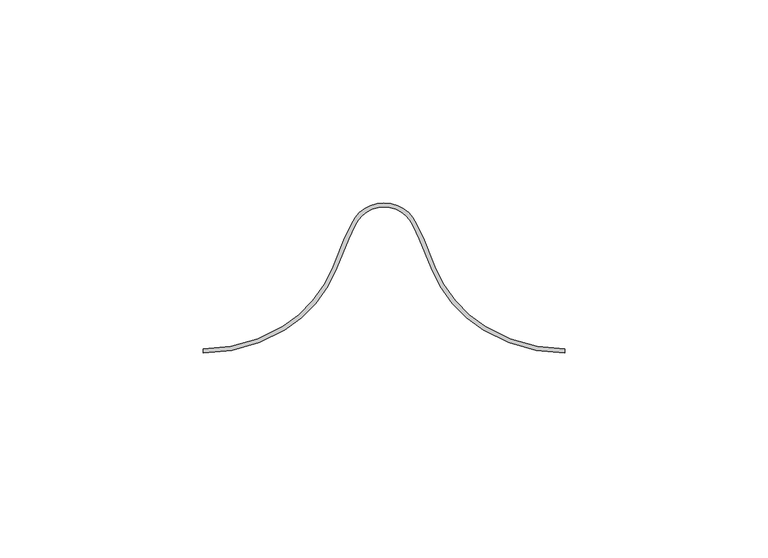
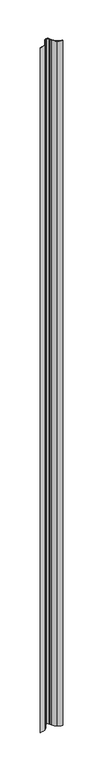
"""IFC4 building model written with IfcOpenShell, lengths in millimetres: plate geometry, Regolare Vertical 89 : Regolare Vertical 89."""

import ifcopenshell
import ifcopenshell.guid

model = None  # the IFC model being written
_history = None  # IfcOwnerHistory: only IFC2X3 demands one
_inside = {}  # id of a spatial element -> (the spatial element, [elements in it])
_under = {}  # id of a project, library or spatial element -> (it, [spatial elements below it])
_declared = {}  # id of a project -> (the project, [libraries it declares])
_typed = {}  # id of a type object -> (the type object, [elements of that type])
_made_of = {}  # id of a material, layer set ... -> (it, [elements and type objects made of it])


def new_model(schema):
    """Start an empty IFC model of exactly this schema.

    Asked for "IFC4X3", IfcOpenShell would pick the latest addendum, in which some entities
    have other attributes; the version numbers below select the first issue.
    IFC2X3 requires an IfcOwnerHistory on every rooted entity: one is made here for all.
    """
    global model, _history
    if schema == "IFC4X3":
        model = ifcopenshell.file(schema_version=(4, 3, 0, 0))
    else:
        model = ifcopenshell.file(schema=schema)
    _inside.clear()
    _under.clear()
    _declared.clear()
    _typed.clear()
    _made_of.clear()
    _history = None
    if model.schema == "IFC2X3":
        org = make("IfcOrganization", Name="unknown")
        user = make(
            "IfcPersonAndOrganization",
            ThePerson=make("IfcPerson", FamilyName="unknown"),
            TheOrganization=org,
        )
        app = make(
            "IfcApplication",
            ApplicationDeveloper=org,
            Version="unknown",
            ApplicationFullName="unknown",
            ApplicationIdentifier="unknown",
        )
        _history = make(
            "IfcOwnerHistory",
            OwningUser=user,
            OwningApplication=app,
            ChangeAction="ADDED",
            CreationDate=0,
        )
    return model


def make(cls, **values):
    """One entity of the class cls with the attributes given. An attribute that is None is left unset."""
    return model.create_entity(
        cls, **{name: value for name, value in values.items() if value is not None}
    )


def rooted(cls, **values):
    """An entity with a GlobalId (a new one), such as an element, a storey or a relation."""
    return make(cls, GlobalId=ifcopenshell.guid.new(), OwnerHistory=_history, **values)


def si_unit(unit_type, name, prefix=None):
    """IfcSIUnit, for example si_unit("LENGTHUNIT", "METRE", prefix="MILLI")."""
    return make("IfcSIUnit", UnitType=unit_type, Prefix=prefix, Name=name)


def assignment(units):
    """IfcUnitAssignment: the units of a project."""
    return None if units is None else make("IfcUnitAssignment", Units=units)


def point(xyz):
    """IfcCartesianPoint."""
    return None if xyz is None else make("IfcCartesianPoint", Coordinates=xyz)


def direction(xyz):
    """IfcDirection."""
    return None if xyz is None else make("IfcDirection", DirectionRatios=xyz)


def frame(location, z_axis=None, x_axis=None):
    """IfcAxis2Placement3D, a coordinate frame: its origin and axes. An axis left out is left unset."""
    return make(
        "IfcAxis2Placement3D",
        Location=point(location),
        Axis=direction(z_axis),
        RefDirection=direction(x_axis),
    )


def frame_2d(location, x_axis=None):
    """IfcAxis2Placement2D, a coordinate frame in the plane: its origin and x axis."""
    return make(
        "IfcAxis2Placement2D", Location=point(location), RefDirection=direction(x_axis)
    )


def origin():
    """The frame at (0, 0, 0) with its axes left unset."""
    return frame((0.0, 0.0, 0.0))


def origin_with_axes():
    """The frame at (0, 0, 0) with the z axis (0, 0, 1) and the x axis (1, 0, 0) written out."""
    return frame((0.0, 0.0, 0.0), z_axis=(0.0, 0.0, 1.0), x_axis=(1.0, 0.0, 0.0))


def place(relative_to, where):
    """IfcLocalPlacement: puts the frame where relative to a parent placement (None: the world)."""
    return make(
        "IfcLocalPlacement", PlacementRelTo=relative_to, RelativePlacement=where
    )


def context(
    kind, dimensions, precision=None, world=None, true_north=None, identifier=None
):
    """IfcGeometricRepresentationContext, for example the 3D "Model" context."""
    return make(
        "IfcGeometricRepresentationContext",
        ContextIdentifier=identifier,
        ContextType=kind,
        CoordinateSpaceDimension=dimensions,
        Precision=precision,
        WorldCoordinateSystem=world,
        TrueNorth=true_north,
    )


def project(units=None, contexts=None):
    """IfcProject with its units and contexts."""
    return rooted(
        "IfcProject",
        Name="project",
        RepresentationContexts=contexts,
        UnitsInContext=assignment(units),
    )


def spatial(cls, under=None, at=None, **own):
    """A site, building, storey or space (cls), placed at a placement, below another one or the project."""
    s = rooted(cls, ObjectPlacement=at, **own)
    if under is not None:
        _under.setdefault(under.id(), (under, []))[1].append(s)
    return s


def polyline(points):
    """IfcPolyline through the points."""
    return make("IfcPolyline", Points=[point(p) for p in points])


def circle_curve(where, radius):
    """IfcCircle in the frame where."""
    return make("IfcCircle", Position=where, Radius=radius)


def trimmed(basis, trim1, trim2, sense, master):
    """IfcTrimmedCurve: the piece of a basis curve between two trims."""
    return make(
        "IfcTrimmedCurve",
        BasisCurve=basis,
        Trim1=trim1,
        Trim2=trim2,
        SenseAgreement=sense,
        MasterRepresentation=master,
    )


def segment(curve, same_sense, transition):
    """IfcCompositeCurveSegment."""
    return make(
        "IfcCompositeCurveSegment",
        Transition=transition,
        SameSense=same_sense,
        ParentCurve=curve,
    )


def composite_curve(segments, self_intersect=None):
    """IfcCompositeCurve: segments joined end to end."""
    return make("IfcCompositeCurve", Segments=segments, SelfIntersect=self_intersect)


def outline(outer, holes=None, kind="AREA"):
    """IfcArbitraryClosedProfileDef: a profile drawn as a closed curve; with holes, ...WithVoids."""
    if holes is None:
        return make("IfcArbitraryClosedProfileDef", ProfileType=kind, OuterCurve=outer)
    return make(
        "IfcArbitraryProfileDefWithVoids",
        ProfileType=kind,
        OuterCurve=outer,
        InnerCurves=holes,
    )


def extrude(swept, where, along, depth):
    """IfcExtrudedAreaSolid: the profile swept, set in the frame where, extruded along a direction by depth."""
    return make(
        "IfcExtrudedAreaSolid",
        SweptArea=swept,
        Position=where,
        ExtrudedDirection=direction(along),
        Depth=depth,
    )


def shape(context_of_items, identifier, shape_type, items):
    """IfcShapeRepresentation: the items that make up one representation, for example the "Body"."""
    return make(
        "IfcShapeRepresentation",
        ContextOfItems=context_of_items,
        RepresentationIdentifier=identifier,
        RepresentationType=shape_type,
        Items=items,
    )


def source(mapping_origin, context_of_items, identifier, shape_type, items):
    """IfcRepresentationMap: a shape defined once, which mapped items show again and again."""
    return make(
        "IfcRepresentationMap",
        MappingOrigin=mapping_origin,
        MappedRepresentation=shape(context_of_items, identifier, shape_type, items),
    )


def transform(
    local_origin,
    x_axis=None,
    y_axis=None,
    z_axis=None,
    scale=None,
    scale2=None,
    scale3=None,
    uniform=True,
):
    """IfcCartesianTransformationOperator3D, or its non-uniform kind. x_axis, y_axis, z_axis: its Axis1, 2, 3."""
    if uniform:
        return make(
            "IfcCartesianTransformationOperator3D",
            Axis1=direction(x_axis),
            Axis2=direction(y_axis),
            LocalOrigin=point(local_origin),
            Scale=scale,
            Axis3=direction(z_axis),
        )
    return make(
        "IfcCartesianTransformationOperator3DnonUniform",
        Axis1=direction(x_axis),
        Axis2=direction(y_axis),
        LocalOrigin=point(local_origin),
        Scale=scale,
        Axis3=direction(z_axis),
        Scale2=scale2,
        Scale3=scale3,
    )


def mapped(mapping_source, mapping_target):
    """IfcMappedItem: shows the shape of a source again, moved by a transform."""
    return make(
        "IfcMappedItem", MappingSource=mapping_source, MappingTarget=mapping_target
    )


def made_of(thing, what):
    """Note that an element or type object is made of a material, layer set ...; save() writes the relation."""
    if what is not None:
        _made_of.setdefault(what.id(), (what, []))[1].append(thing)
    return thing


def element(
    cls,
    number,
    at=None,
    inside=None,
    cuts=None,
    type_object=None,
    material=None,
    context=None,
    identifier="Body",
    shape_type=None,
    held_by="IfcProductDefinitionShape",
    body=None,
    shapes=None,
    **own,
):
    """One element of the class cls, such as IfcWall. Its Tag is "e" and its number.

    at: its placement. inside: the storey or other place that contains it. cuts: it is an
    opening in that element (IfcRelVoidsElement). A single representation is given by context,
    identifier, shape_type and body (its items); several are given by shapes. held_by: the class
    of the entity that holds the representations. save() writes the other relations.
    """
    e = rooted(cls, Tag="e%d" % number, ObjectPlacement=at, **own)
    if body is not None:
        shapes = [shape(context, identifier, shape_type, body)]
    if shapes is not None:
        e.Representation = make(held_by, Representations=shapes)
    if inside is not None:
        _inside.setdefault(inside.id(), (inside, []))[1].append(e)
    if cuts is not None:
        rooted(
            "IfcRelVoidsElement", RelatingBuildingElement=cuts, RelatedOpeningElement=e
        )
    if type_object is not None:
        _typed.setdefault(type_object.id(), (type_object, []))[1].append(e)
    return made_of(e, material)


def aggregate(whole, parts):
    """IfcRelAggregates: a whole, such as a stair, and the parts it consists of."""
    return rooted("IfcRelAggregates", RelatingObject=whole, RelatedObjects=parts)


def save(model, path):
    """Write the relations noted so far, then the file.

    IfcRelAggregates (storeys below a building ...), IfcRelContainedInSpatialStructure (elements
    in a storey), IfcRelDefinesByType, IfcRelAssociatesMaterial and IfcRelDeclares: one each for
    every whole, place, type object, material and project.
    """
    for whole, parts in _under.values():
        aggregate(whole, parts)
    for where, things in _inside.values():
        rooted(
            "IfcRelContainedInSpatialStructure",
            RelatedElements=things,
            RelatingStructure=where,
        )
    for kind, things in _typed.values():
        rooted("IfcRelDefinesByType", RelatedObjects=things, RelatingType=kind)
    for what, things in _made_of.values():
        rooted("IfcRelAssociatesMaterial", RelatedObjects=things, RelatingMaterial=what)
    for by, libraries in _declared.values():
        rooted("IfcRelDeclares", RelatingContext=by, RelatedDefinitions=libraries)
    model.write(path)


def plate_7821fd8d(model_context):
    return source(origin(), model_context, "Body", "SweptSolid", [
        extrude(outline(composite_curve([segment(trimmed(circle_curve(frame_2d((44.5257445, 38.4503244)), 37.4503244), [point((24.9849944, 6.5021495))], [point((44.5257445, 1.0))], True, "CARTESIAN"), True, "CONTINUOUS"), segment(polyline([(44.5257445, 1.0), (44.5257445, 0.0)]), True, "CONTINUOUS"), segment(trimmed(circle_curve(frame_2d((44.5257445, 38.4503244)), 38.4503244), [point((44.5257445, 0.0))], [point((24.4632165, 5.6490681))], False, "CARTESIAN"), True, "CONTINUOUS"), segment(trimmed(circle_curve(frame_2d((40.9600993, 32.6206681)), 31.6166783), [point((24.4632165, 5.6490681))], [point((11.6046151, 20.878867))], False, "CARTESIAN"), True, "CONTINUOUS"), segment(polyline([(11.6046151, 20.878867), (8.7353934, 28.0423924), (7.0890396, 31.4771017)]), True, "CONTINUOUS"), segment(trimmed(circle_curve(frame_2d((0.0, 28.0791236)), 7.8613445), [point((7.0890396, 31.4771017))], [point((0.0, 35.9404682))], True, "CARTESIAN"), True, "CONTINUOUS"), segment(trimmed(circle_curve(frame_2d((0.0, 28.0791236)), 7.8613445), [point((0.0, 35.9404682))], [point((-7.0890396, 31.4771017))], True, "CARTESIAN"), True, "CONTINUOUS"), segment(polyline([(-7.0890396, 31.4771017), (-8.7353934, 28.0423924), (-11.6046151, 20.878867)]), True, "CONTINUOUS"), segment(trimmed(circle_curve(frame_2d((-40.9600993, 32.6206681)), 31.6166783), [point((-11.6046151, 20.878867))], [point((-24.4632165, 5.6490681))], False, "CARTESIAN"), True, "CONTINUOUS"), segment(trimmed(circle_curve(frame_2d((-44.5257445, 38.4503244)), 38.4503244), [point((-24.4632165, 5.6490681))], [point((-44.5257445, 0.0))], False, "CARTESIAN"), True, "CONTINUOUS"), segment(polyline([(-44.5257445, 0.0), (-44.5257445, 1.0)]), True, "CONTINUOUS"), segment(trimmed(circle_curve(frame_2d((-44.5257445, 38.4503244)), 37.4503244), [point((-44.5257445, 1.0))], [point((-24.9849944, 6.5021495))], True, "CARTESIAN"), True, "CONTINUOUS"), segment(trimmed(circle_curve(frame_2d((-40.9600993, 32.6206681)), 30.6166783), [point((-24.9849944, 6.5021495))], [point((-12.5330095, 21.2504634))], True, "CARTESIAN"), True, "CONTINUOUS"), segment(polyline([(-12.5330095, 21.2504634), (-9.6514235, 28.4448583), (-7.9907988, 31.9093405)]), True, "CONTINUOUS"), segment(trimmed(circle_curve(frame_2d((0.0, 28.0791236)), 8.8613445), [point((-7.9907988, 31.9093405))], [point((0.0, 36.9404682))], False, "CARTESIAN"), True, "CONTINUOUS"), segment(trimmed(circle_curve(frame_2d((0.0, 28.0791236)), 8.8613445), [point((0.0, 36.9404682))], [point((7.9907988, 31.9093405))], False, "CARTESIAN"), True, "CONTINUOUS"), segment(polyline([(7.9907988, 31.9093405), (9.6514235, 28.4448583), (12.5330095, 21.2504634)]), True, "CONTINUOUS"), segment(trimmed(circle_curve(frame_2d((40.9600993, 32.6206681)), 30.6166783), [point((12.5330095, 21.2504634))], [point((24.9849944, 6.5021495))], True, "CARTESIAN"), True, "CONTINUOUS")], self_intersect=False)), origin_with_axes(), (0.0, 0.0, 1.0), 2859.2009216),
    ])


if __name__ == "__main__":
    model = new_model("IFC4")
    model_context = context("Model", 3, world=origin())
    ifc_project = project(units=[si_unit("LENGTHUNIT", "METRE", prefix="MILLI")], contexts=[model_context])
    site = spatial("IfcSite", under=ifc_project)
    building = spatial("IfcBuilding", under=site)
    placement = place(None, origin())
    plate_shape = plate_7821fd8d(model_context)
    element("IfcPlate", 1, ObjectType="Regolare Vertical 89 : Regolare Vertical 89", at=placement, inside=building, context=model_context, shape_type="MappedRepresentation", body=[
        mapped(plate_shape, transform((0.0, 0.0, 0.0), x_axis=(1.0, 0.0, 0.0), y_axis=(0.0, 1.0, 0.0), z_axis=(0.0, 0.0, 1.0))),
    ])
    save(model, "model.ifc")
